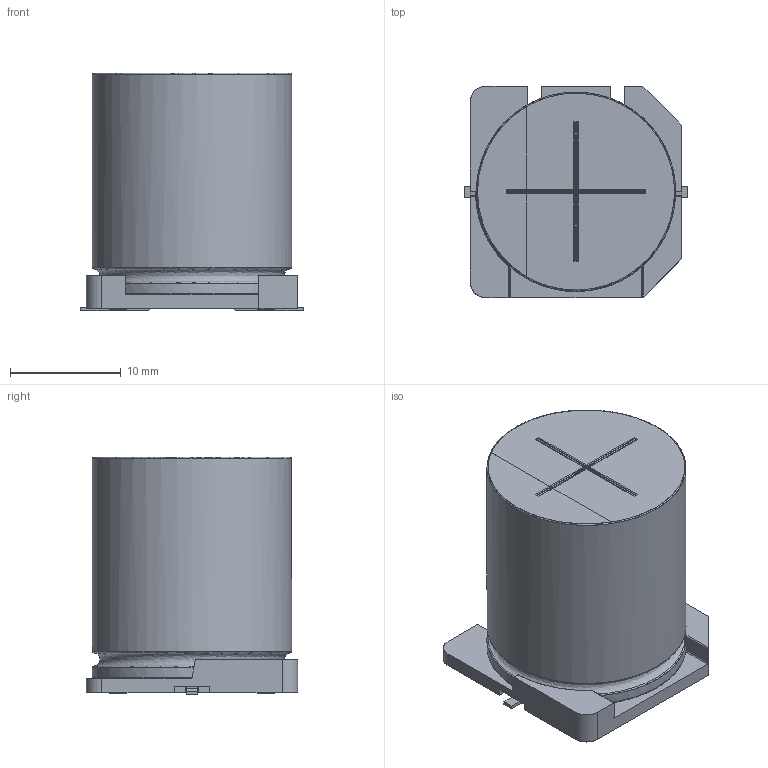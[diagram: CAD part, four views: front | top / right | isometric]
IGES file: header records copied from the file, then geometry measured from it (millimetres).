
Start section: JAMA-IS VERSION  1.0
Bounding box: 20.1 x 19.1 x 21.5 mm (x, y, z)
Surface area: 2700.3 mm2 (no closed solid volume)
Topology: 0 solids, 0 shells, 146 faces, 1364 edges, 1341 vertices
Faces by surface type: bspline 146
